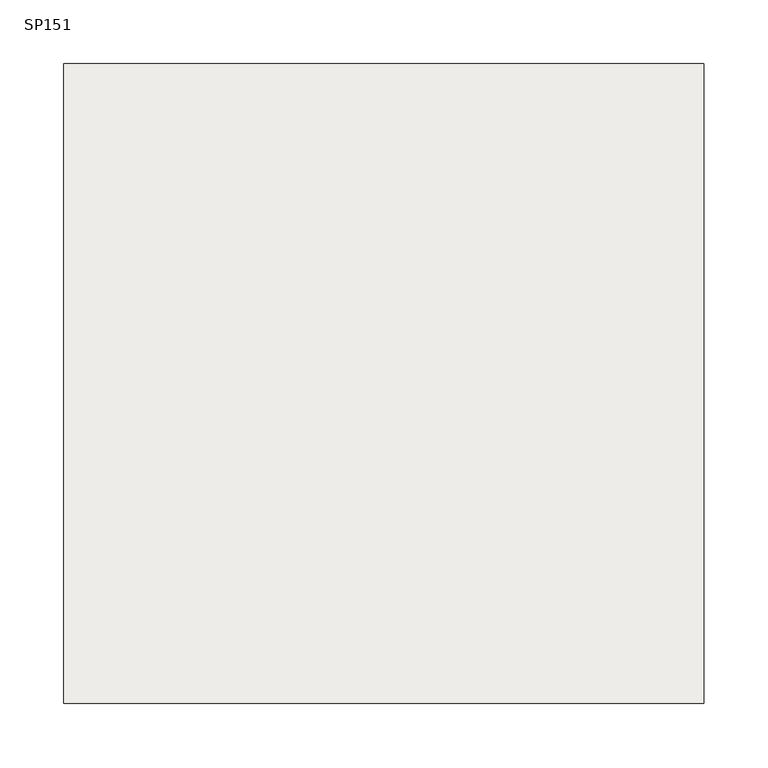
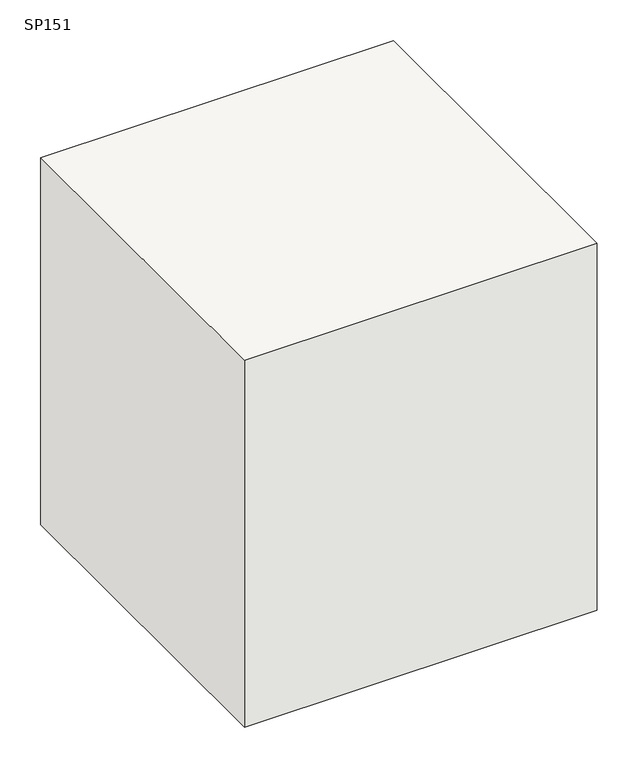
"""IFC4 building model written with IfcOpenShell, lengths in millimetres: slab geometry, 柱形_SP : SP151."""

import ifcopenshell
import ifcopenshell.guid

model = None  # the IFC model being written
_history = None  # IfcOwnerHistory: only IFC2X3 demands one
_inside = {}  # id of a spatial element -> (the spatial element, [elements in it])
_under = {}  # id of a project, library or spatial element -> (it, [spatial elements below it])
_declared = {}  # id of a project -> (the project, [libraries it declares])
_typed = {}  # id of a type object -> (the type object, [elements of that type])
_made_of = {}  # id of a material, layer set ... -> (it, [elements and type objects made of it])


def new_model(schema):
    """Start an empty IFC model of exactly this schema.

    Asked for "IFC4X3", IfcOpenShell would pick the latest addendum, in which some entities
    have other attributes; the version numbers below select the first issue.
    IFC2X3 requires an IfcOwnerHistory on every rooted entity: one is made here for all.
    """
    global model, _history
    if schema == "IFC4X3":
        model = ifcopenshell.file(schema_version=(4, 3, 0, 0))
    else:
        model = ifcopenshell.file(schema=schema)
    _inside.clear()
    _under.clear()
    _declared.clear()
    _typed.clear()
    _made_of.clear()
    _history = None
    if model.schema == "IFC2X3":
        org = make("IfcOrganization", Name="unknown")
        user = make(
            "IfcPersonAndOrganization",
            ThePerson=make("IfcPerson", FamilyName="unknown"),
            TheOrganization=org,
        )
        app = make(
            "IfcApplication",
            ApplicationDeveloper=org,
            Version="unknown",
            ApplicationFullName="unknown",
            ApplicationIdentifier="unknown",
        )
        _history = make(
            "IfcOwnerHistory",
            OwningUser=user,
            OwningApplication=app,
            ChangeAction="ADDED",
            CreationDate=0,
        )
    return model


def make(cls, **values):
    """One entity of the class cls with the attributes given. An attribute that is None is left unset."""
    return model.create_entity(
        cls, **{name: value for name, value in values.items() if value is not None}
    )


def rooted(cls, **values):
    """An entity with a GlobalId (a new one), such as an element, a storey or a relation."""
    return make(cls, GlobalId=ifcopenshell.guid.new(), OwnerHistory=_history, **values)


def si_unit(unit_type, name, prefix=None):
    """IfcSIUnit, for example si_unit("LENGTHUNIT", "METRE", prefix="MILLI")."""
    return make("IfcSIUnit", UnitType=unit_type, Prefix=prefix, Name=name)


def assignment(units):
    """IfcUnitAssignment: the units of a project."""
    return None if units is None else make("IfcUnitAssignment", Units=units)


def point(xyz):
    """IfcCartesianPoint."""
    return None if xyz is None else make("IfcCartesianPoint", Coordinates=xyz)


def direction(xyz):
    """IfcDirection."""
    return None if xyz is None else make("IfcDirection", DirectionRatios=xyz)


def frame(location, z_axis=None, x_axis=None):
    """IfcAxis2Placement3D, a coordinate frame: its origin and axes. An axis left out is left unset."""
    return make(
        "IfcAxis2Placement3D",
        Location=point(location),
        Axis=direction(z_axis),
        RefDirection=direction(x_axis),
    )


def origin():
    """The frame at (0, 0, 0) with its axes left unset."""
    return frame((0.0, 0.0, 0.0))


def place(relative_to, where):
    """IfcLocalPlacement: puts the frame where relative to a parent placement (None: the world)."""
    return make(
        "IfcLocalPlacement", PlacementRelTo=relative_to, RelativePlacement=where
    )


def context(
    kind, dimensions, precision=None, world=None, true_north=None, identifier=None
):
    """IfcGeometricRepresentationContext, for example the 3D "Model" context."""
    return make(
        "IfcGeometricRepresentationContext",
        ContextIdentifier=identifier,
        ContextType=kind,
        CoordinateSpaceDimension=dimensions,
        Precision=precision,
        WorldCoordinateSystem=world,
        TrueNorth=true_north,
    )


def project(units=None, contexts=None):
    """IfcProject with its units and contexts."""
    return rooted(
        "IfcProject",
        Name="project",
        RepresentationContexts=contexts,
        UnitsInContext=assignment(units),
    )


def spatial(cls, under=None, at=None, **own):
    """A site, building, storey or space (cls), placed at a placement, below another one or the project."""
    s = rooted(cls, ObjectPlacement=at, **own)
    if under is not None:
        _under.setdefault(under.id(), (under, []))[1].append(s)
    return s


def polyline(points):
    """IfcPolyline through the points."""
    return make("IfcPolyline", Points=[point(p) for p in points])


def outline(outer, holes=None, kind="AREA"):
    """IfcArbitraryClosedProfileDef: a profile drawn as a closed curve; with holes, ...WithVoids."""
    if holes is None:
        return make("IfcArbitraryClosedProfileDef", ProfileType=kind, OuterCurve=outer)
    return make(
        "IfcArbitraryProfileDefWithVoids",
        ProfileType=kind,
        OuterCurve=outer,
        InnerCurves=holes,
    )


def extrude(swept, where, along, depth):
    """IfcExtrudedAreaSolid: the profile swept, set in the frame where, extruded along a direction by depth."""
    return make(
        "IfcExtrudedAreaSolid",
        SweptArea=swept,
        Position=where,
        ExtrudedDirection=direction(along),
        Depth=depth,
    )


def shape(context_of_items, identifier, shape_type, items):
    """IfcShapeRepresentation: the items that make up one representation, for example the "Body"."""
    return make(
        "IfcShapeRepresentation",
        ContextOfItems=context_of_items,
        RepresentationIdentifier=identifier,
        RepresentationType=shape_type,
        Items=items,
    )


def source(mapping_origin, context_of_items, identifier, shape_type, items):
    """IfcRepresentationMap: a shape defined once, which mapped items show again and again."""
    return make(
        "IfcRepresentationMap",
        MappingOrigin=mapping_origin,
        MappedRepresentation=shape(context_of_items, identifier, shape_type, items),
    )


def transform(
    local_origin,
    x_axis=None,
    y_axis=None,
    z_axis=None,
    scale=None,
    scale2=None,
    scale3=None,
    uniform=True,
):
    """IfcCartesianTransformationOperator3D, or its non-uniform kind. x_axis, y_axis, z_axis: its Axis1, 2, 3."""
    if uniform:
        return make(
            "IfcCartesianTransformationOperator3D",
            Axis1=direction(x_axis),
            Axis2=direction(y_axis),
            LocalOrigin=point(local_origin),
            Scale=scale,
            Axis3=direction(z_axis),
        )
    return make(
        "IfcCartesianTransformationOperator3DnonUniform",
        Axis1=direction(x_axis),
        Axis2=direction(y_axis),
        LocalOrigin=point(local_origin),
        Scale=scale,
        Axis3=direction(z_axis),
        Scale2=scale2,
        Scale3=scale3,
    )


def mapped(mapping_source, mapping_target):
    """IfcMappedItem: shows the shape of a source again, moved by a transform."""
    return make(
        "IfcMappedItem", MappingSource=mapping_source, MappingTarget=mapping_target
    )


def made_of(thing, what):
    """Note that an element or type object is made of a material, layer set ...; save() writes the relation."""
    if what is not None:
        _made_of.setdefault(what.id(), (what, []))[1].append(thing)
    return thing


def element(
    cls,
    number,
    at=None,
    inside=None,
    cuts=None,
    type_object=None,
    material=None,
    context=None,
    identifier="Body",
    shape_type=None,
    held_by="IfcProductDefinitionShape",
    body=None,
    shapes=None,
    **own,
):
    """One element of the class cls, such as IfcWall. Its Tag is "e" and its number.

    at: its placement. inside: the storey or other place that contains it. cuts: it is an
    opening in that element (IfcRelVoidsElement). A single representation is given by context,
    identifier, shape_type and body (its items); several are given by shapes. held_by: the class
    of the entity that holds the representations. save() writes the other relations.
    """
    e = rooted(cls, Tag="e%d" % number, ObjectPlacement=at, **own)
    if body is not None:
        shapes = [shape(context, identifier, shape_type, body)]
    if shapes is not None:
        e.Representation = make(held_by, Representations=shapes)
    if inside is not None:
        _inside.setdefault(inside.id(), (inside, []))[1].append(e)
    if cuts is not None:
        rooted(
            "IfcRelVoidsElement", RelatingBuildingElement=cuts, RelatedOpeningElement=e
        )
    if type_object is not None:
        _typed.setdefault(type_object.id(), (type_object, []))[1].append(e)
    return made_of(e, material)


def aggregate(whole, parts):
    """IfcRelAggregates: a whole, such as a stair, and the parts it consists of."""
    return rooted("IfcRelAggregates", RelatingObject=whole, RelatedObjects=parts)


def save(model, path):
    """Write the relations noted so far, then the file.

    IfcRelAggregates (storeys below a building ...), IfcRelContainedInSpatialStructure (elements
    in a storey), IfcRelDefinesByType, IfcRelAssociatesMaterial and IfcRelDeclares: one each for
    every whole, place, type object, material and project.
    """
    for whole, parts in _under.values():
        aggregate(whole, parts)
    for where, things in _inside.values():
        rooted(
            "IfcRelContainedInSpatialStructure",
            RelatedElements=things,
            RelatingStructure=where,
        )
    for kind, things in _typed.values():
        rooted("IfcRelDefinesByType", RelatedObjects=things, RelatingType=kind)
    for what, things in _made_of.values():
        rooted("IfcRelAssociatesMaterial", RelatedObjects=things, RelatingMaterial=what)
    for by, libraries in _declared.values():
        rooted("IfcRelDeclares", RelatingContext=by, RelatedDefinitions=libraries)
    model.write(path)


def sp151_05a4cf6c(model_context):
    return source(origin(), model_context, "Body", "SweptSolid", [
        extrude(outline(polyline([(250.0, 250.0), (250.0, -250.0), (-250.0, -250.0), (-250.0, 250.0), (250.0, 250.0)])), frame((0.0, 0.0, -550.0), z_axis=(0.0, 0.0, 1.0), x_axis=(1.0, 0.0, 0.0)), (0.0, 0.0, 1.0), 550.0),
    ])


if __name__ == "__main__":
    model = new_model("IFC4")
    model_context = context("Model", 3, world=origin())
    ifc_project = project(units=[si_unit("LENGTHUNIT", "METRE", prefix="MILLI")], contexts=[model_context])
    site = spatial("IfcSite", under=ifc_project)
    building = spatial("IfcBuilding", under=site)
    placement = place(None, origin())
    sp151_shape = sp151_05a4cf6c(model_context)
    element("IfcSlab", 1, ObjectType="柱形_SP : SP151", at=placement, inside=building, context=model_context, shape_type="MappedRepresentation", body=[
        mapped(sp151_shape, transform((0.0, 0.0, 0.0), x_axis=(1.0, 0.0, 0.0), y_axis=(0.0, 1.0, 0.0), z_axis=(0.0, 0.0, 1.0))),
    ])
    save(model, "model.ifc")
